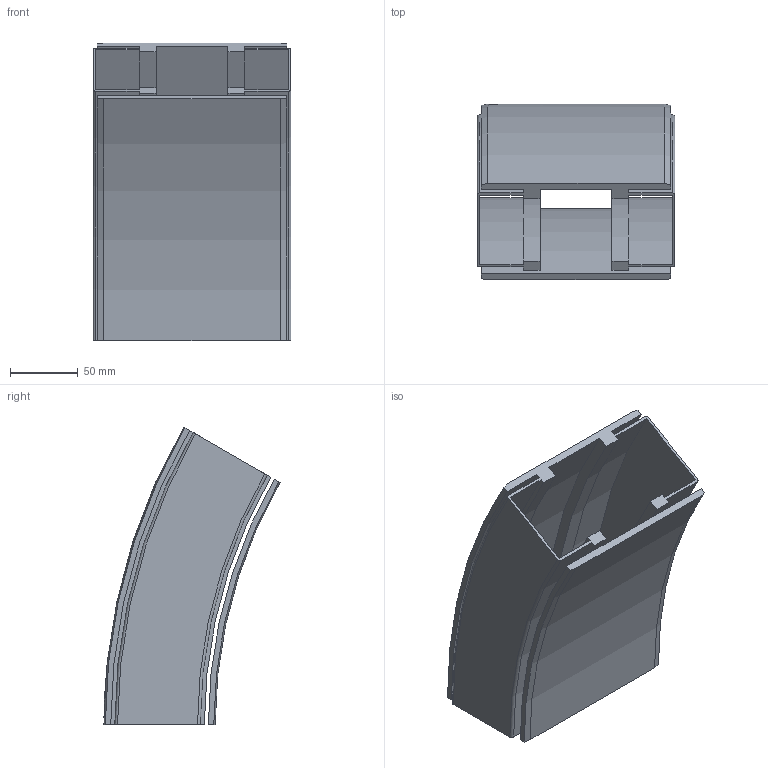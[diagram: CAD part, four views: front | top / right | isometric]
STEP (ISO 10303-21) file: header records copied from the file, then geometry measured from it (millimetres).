
FILE_DESCRIPTION((''),'2;1');
FILE_NAME('C:\Vault Klient\Projekt\Koncept konstruktion\Serie 540 Balk\540-5610_DOWN.stp','2010-11-25T11:13:27',('Mathias'),(''),'Autodesk Inventor 2011','Autodesk Inventor 2011','');
FILE_SCHEMA(('AUTOMOTIVE_DESIGN { 1 0 10303 214 1 1 1 1 }'));
Length unit declared in the file: millimetre
Products named in the file (1): 540-5610_DOWN
Bounding box: 146 x 129.89 x 219.75 mm (x, y, z)
Volume: 479432.1 mm3; surface area: 251837.6 mm2
Topology: 2 solids, 2 shells, 87 faces, 234 edges, 156 vertices
Faces by surface type: plane 38, cylinder 25, bspline 14, cone 6, torus 4
Entity records: 3147 total; most frequent: CARTESIAN_POINT 909, ORIENTED_EDGE 468, DIRECTION 428, EDGE_CURVE 234, VERTEX_POINT 156, AXIS2_PLACEMENT_3D 148, VECTOR 132, LINE 132
